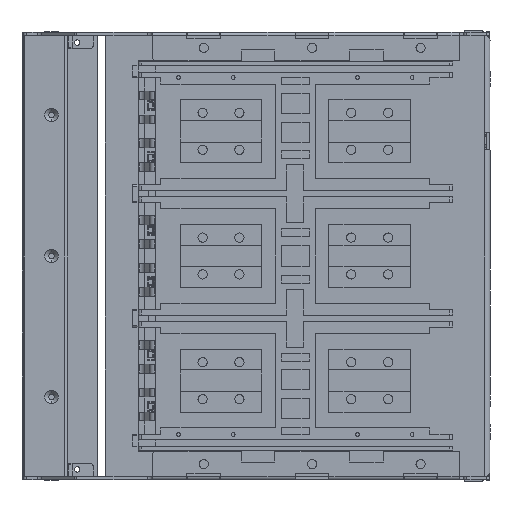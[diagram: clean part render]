
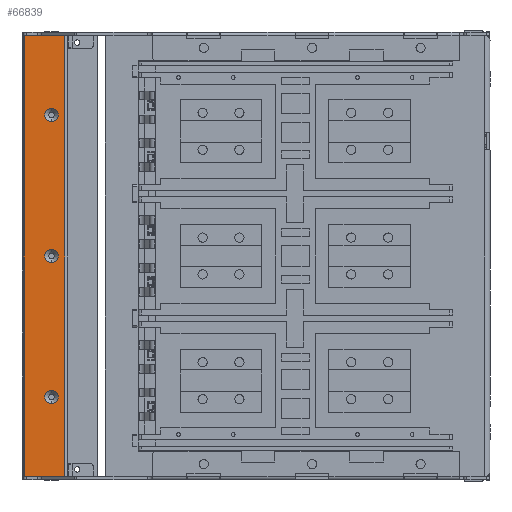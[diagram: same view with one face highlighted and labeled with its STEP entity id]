
A CAD part, left-side view. The second image highlights one B-rep face of the part: STEP entity #66839.
In plain terms, the highlighted planar face has unit normal (-1, 0, 0).
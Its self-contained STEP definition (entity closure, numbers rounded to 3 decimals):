
#2470 = DIRECTION ( 'NONE',  ( 1., 0., 0. ) ) ;
#4097 = EDGE_LOOP ( 'NONE', ( #62691, #140376, #36274, #187401 ) ) ;
#4617 = CARTESIAN_POINT ( 'NONE',  ( 294.756, 591.613, 160.888 ) ) ;
#5236 = CARTESIAN_POINT ( 'NONE',  ( 294.756, 579.413, 234.188 ) ) ;
#6222 = CIRCLE ( 'NONE', #143107, 6.1 ) ;
#6805 = DIRECTION ( 'NONE',  ( 1., 0., 0. ) ) ;
#13831 = CARTESIAN_POINT ( 'NONE',  ( 294.756, 579.413, 234.188 ) ) ;
#16570 = DIRECTION ( 'NONE',  ( 0., 0., -1. ) ) ;
#17631 = VERTEX_POINT ( 'NONE', #158302 ) ;
#23369 = DIRECTION ( 'NONE',  ( 0., 1., 0. ) ) ;
#24693 = VECTOR ( 'NONE', #185913, 1000. ) ;
#26395 = CARTESIAN_POINT ( 'NONE',  ( 294.756, 591.613, -99.112 ) ) ;
#27332 = CARTESIAN_POINT ( 'NONE',  ( 294.756, 579.413, -172.412 ) ) ;
#29305 = VERTEX_POINT ( 'NONE', #13831 ) ;
#32617 = CARTESIAN_POINT ( 'NONE',  ( 294.756, 591.613, 30.888 ) ) ;
#35232 = EDGE_CURVE ( 'NONE', #160249, #151086, #6222, .T. ) ;
#36274 = ORIENTED_EDGE ( 'NONE', *, *, #123765, .T. ) ;
#40293 = VERTEX_POINT ( 'NONE', #174334 ) ;
#42755 = VECTOR ( 'NONE', #74197, 1000. ) ;
#47404 = EDGE_CURVE ( 'NONE', #17631, #66026, #189393, .T. ) ;
#51527 = DIRECTION ( 'NONE',  ( 0., -1., 0. ) ) ;
#59667 = AXIS2_PLACEMENT_3D ( 'NONE', #188961, #73433, #23369 ) ;
#60119 = EDGE_LOOP ( 'NONE', ( #191552, #69107 ) ) ;
#62691 = ORIENTED_EDGE ( 'NONE', *, *, #185478, .F. ) ;
#63426 = EDGE_CURVE ( 'NONE', #76375, #40293, #152165, .T. ) ;
#63942 = CARTESIAN_POINT ( 'NONE',  ( 294.756, 616.613, 234.188 ) ) ;
#64446 = AXIS2_PLACEMENT_3D ( 'NONE', #197321, #146476, #165038 ) ;
#66026 = VERTEX_POINT ( 'NONE', #198691 ) ;
#66839 = ADVANCED_FACE ( 'NONE', ( #88858, #171113, #122264, #145405 ), #203353, .F. ) ;
#67913 = EDGE_LOOP ( 'NONE', ( #94794, #192613 ) ) ;
#68977 = CARTESIAN_POINT ( 'NONE',  ( 294.756, 591.613, 24.788 ) ) ;
#69107 = ORIENTED_EDGE ( 'NONE', *, *, #47404, .T. ) ;
#73433 = DIRECTION ( 'NONE',  ( 1., 0., 0. ) ) ;
#74197 = DIRECTION ( 'NONE',  ( 0., -1., 0. ) ) ;
#74221 = VERTEX_POINT ( 'NONE', #132829 ) ;
#76375 = VERTEX_POINT ( 'NONE', #157431 ) ;
#77530 = VERTEX_POINT ( 'NONE', #27332 ) ;
#87190 = CARTESIAN_POINT ( 'NONE',  ( 294.756, 616.613, -172.412 ) ) ;
#88858 = FACE_OUTER_BOUND ( 'NONE', #4097, .T. ) ;
#89437 = DIRECTION ( 'NONE',  ( 0., 0., -1. ) ) ;
#90022 = EDGE_CURVE ( 'NONE', #151086, #160249, #212846, .T. ) ;
#90060 = EDGE_CURVE ( 'NONE', #74221, #165397, #207721, .T. ) ;
#91121 = ORIENTED_EDGE ( 'NONE', *, *, #35232, .T. ) ;
#94794 = ORIENTED_EDGE ( 'NONE', *, *, #144147, .T. ) ;
#96920 = AXIS2_PLACEMENT_3D ( 'NONE', #26395, #123851, #89437 ) ;
#104735 = CARTESIAN_POINT ( 'NONE',  ( 294.756, 617.613, 234.188 ) ) ;
#109469 = LINE ( 'NONE', #5236, #24693 ) ;
#110948 = AXIS2_PLACEMENT_3D ( 'NONE', #210990, #211698, #112749 ) ;
#112749 = DIRECTION ( 'NONE',  ( 0., 0., -1. ) ) ;
#114962 = CIRCLE ( 'NONE', #121155, 6.1 ) ;
#116752 = CARTESIAN_POINT ( 'NONE',  ( 294.756, 617.613, -172.412 ) ) ;
#121155 = AXIS2_PLACEMENT_3D ( 'NONE', #4617, #135856, #152431 ) ;
#122264 = FACE_BOUND ( 'NONE', #195067, .T. ) ;
#123765 = EDGE_CURVE ( 'NONE', #165397, #77530, #128057, .T. ) ;
#123851 = DIRECTION ( 'NONE',  ( 1., 0., 0. ) ) ;
#128057 = LINE ( 'NONE', #116752, #197482 ) ;
#132829 = CARTESIAN_POINT ( 'NONE',  ( 294.756, 616.613, 234.188 ) ) ;
#132943 = DIRECTION ( 'NONE',  ( 0., 0., -1. ) ) ;
#135856 = DIRECTION ( 'NONE',  ( 1., 0., 0. ) ) ;
#140376 = ORIENTED_EDGE ( 'NONE', *, *, #90060, .T. ) ;
#143107 = AXIS2_PLACEMENT_3D ( 'NONE', #32617, #2470, #132943 ) ;
#144147 = EDGE_CURVE ( 'NONE', #40293, #76375, #151867, .T. ) ;
#145405 = FACE_BOUND ( 'NONE', #67913, .T. ) ;
#145474 = ORIENTED_EDGE ( 'NONE', *, *, #90022, .T. ) ;
#146476 = DIRECTION ( 'NONE',  ( 1., 0., 0. ) ) ;
#151086 = VERTEX_POINT ( 'NONE', #184887 ) ;
#151867 = CIRCLE ( 'NONE', #158283, 6.1 ) ;
#152165 = CIRCLE ( 'NONE', #96920, 6.1 ) ;
#152431 = DIRECTION ( 'NONE',  ( 0., 0., -1. ) ) ;
#157431 = CARTESIAN_POINT ( 'NONE',  ( 294.756, 591.613, -105.212 ) ) ;
#158283 = AXIS2_PLACEMENT_3D ( 'NONE', #203323, #6805, #204025 ) ;
#158302 = CARTESIAN_POINT ( 'NONE',  ( 294.756, 591.613, 154.788 ) ) ;
#160249 = VERTEX_POINT ( 'NONE', #68977 ) ;
#160949 = LINE ( 'NONE', #104735, #42755 ) ;
#163071 = EDGE_CURVE ( 'NONE', #66026, #17631, #114962, .T. ) ;
#165038 = DIRECTION ( 'NONE',  ( 0., 0., -1. ) ) ;
#165397 = VERTEX_POINT ( 'NONE', #87190 ) ;
#171113 = FACE_BOUND ( 'NONE', #60119, .T. ) ;
#174334 = CARTESIAN_POINT ( 'NONE',  ( 294.756, 591.613, -93.012 ) ) ;
#179322 = EDGE_CURVE ( 'NONE', #77530, #29305, #109469, .T. ) ;
#184887 = CARTESIAN_POINT ( 'NONE',  ( 294.756, 591.613, 36.988 ) ) ;
#185478 = EDGE_CURVE ( 'NONE', #74221, #29305, #160949, .T. ) ;
#185913 = DIRECTION ( 'NONE',  ( 0., 0., 1. ) ) ;
#187091 = VECTOR ( 'NONE', #16570, 1000. ) ;
#187401 = ORIENTED_EDGE ( 'NONE', *, *, #179322, .T. ) ;
#188961 = CARTESIAN_POINT ( 'NONE',  ( 294.756, 617.613, 234.188 ) ) ;
#189393 = CIRCLE ( 'NONE', #110948, 6.1 ) ;
#191552 = ORIENTED_EDGE ( 'NONE', *, *, #163071, .T. ) ;
#192613 = ORIENTED_EDGE ( 'NONE', *, *, #63426, .T. ) ;
#195067 = EDGE_LOOP ( 'NONE', ( #145474, #91121 ) ) ;
#197321 = CARTESIAN_POINT ( 'NONE',  ( 294.756, 591.613, 30.888 ) ) ;
#197482 = VECTOR ( 'NONE', #51527, 1000. ) ;
#198691 = CARTESIAN_POINT ( 'NONE',  ( 294.756, 591.613, 166.988 ) ) ;
#203323 = CARTESIAN_POINT ( 'NONE',  ( 294.756, 591.613, -99.112 ) ) ;
#203353 = PLANE ( 'NONE',  #59667 ) ;
#204025 = DIRECTION ( 'NONE',  ( 0., 0., -1. ) ) ;
#207721 = LINE ( 'NONE', #63942, #187091 ) ;
#210990 = CARTESIAN_POINT ( 'NONE',  ( 294.756, 591.613, 160.888 ) ) ;
#211698 = DIRECTION ( 'NONE',  ( 1., 0., 0. ) ) ;
#212846 = CIRCLE ( 'NONE', #64446, 6.1 ) ;
